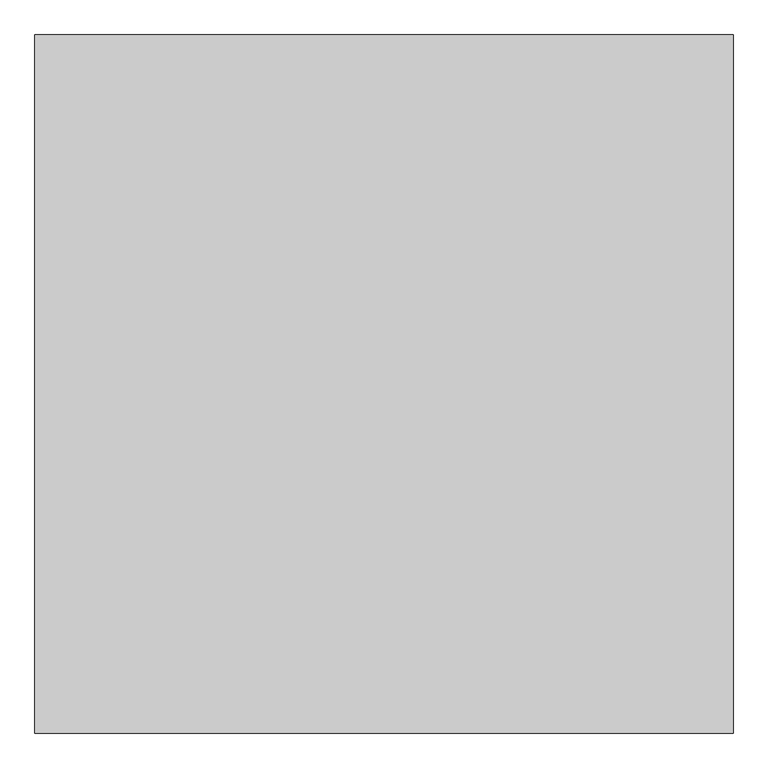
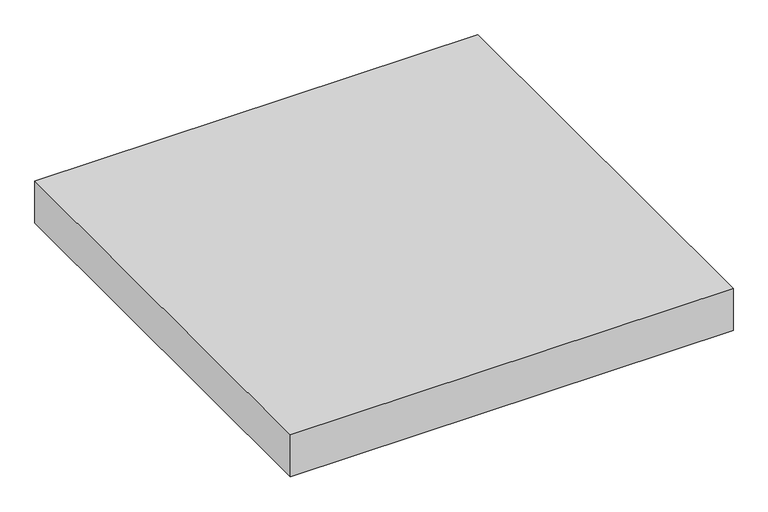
"""IFC4 building model written with IfcOpenShell, lengths in millimetres: proxy geometry, Modelos genéricos 25 : Modelos genéricos 1."""

from ifc_helpers import new_model, si_unit, origin, origin_with_axes, place, context, project, spatial, polyline, outline, extrude, source, transform, mapped, element, save


def generic_models_cf36a30d(model_context):
    return source(origin(), model_context, "Body", "SweptSolid", [
        extrude(outline(polyline([(6809.3973641, 3954.287186), (6809.3973641, 2454.287186), (5309.3973641, 2454.287186), (5309.3973641, 3954.287186), (6809.3973641, 3954.287186)])), origin_with_axes(), (0.0, 0.0, 1.0), 150.0),
    ])


if __name__ == "__main__":
    model = new_model("IFC4")
    model_context = context("Model", 3, world=origin())
    ifc_project = project(units=[si_unit("LENGTHUNIT", "METRE", prefix="MILLI")], contexts=[model_context])
    site = spatial("IfcSite", under=ifc_project)
    building = spatial("IfcBuilding", under=site)
    placement = place(None, origin())
    generic_models_shape = generic_models_cf36a30d(model_context)
    element("IfcBuildingElementProxy", 1, Name="Modelos genéricos 25 : Modelos genéricos 1", ObjectType="Modelos genéricos 25 : Modelos genéricos 1", at=placement, inside=building, context=model_context, shape_type="MappedRepresentation", body=[
        mapped(generic_models_shape, transform((0.0, 0.0, 0.0), x_axis=(1.0, 0.0, 0.0), y_axis=(0.0, 1.0, 0.0), z_axis=(0.0, 0.0, 1.0))),
    ])
    save(model, "model.ifc")
